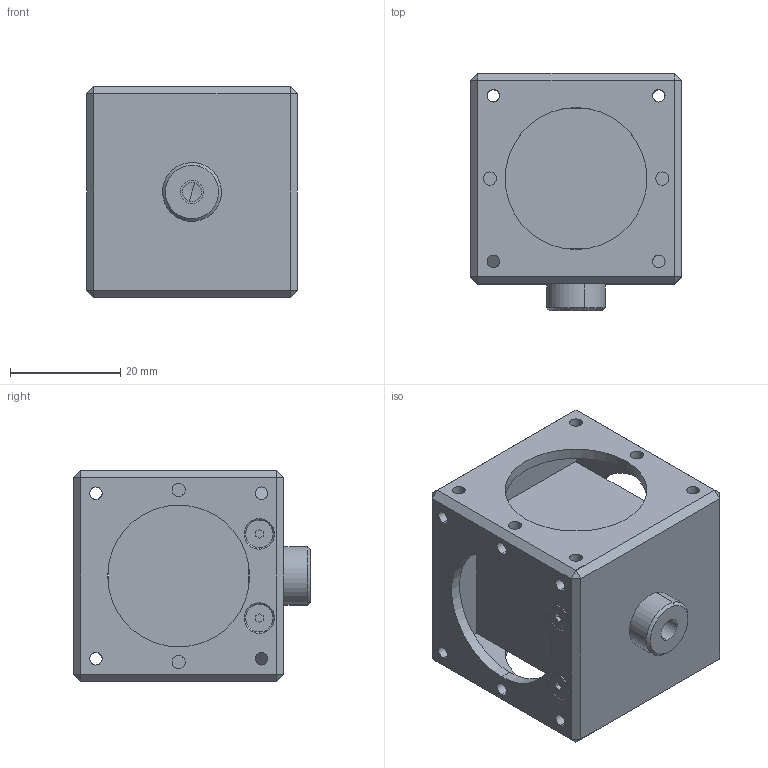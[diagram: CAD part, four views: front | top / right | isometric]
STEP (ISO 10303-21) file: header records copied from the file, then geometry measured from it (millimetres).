
FILE_DESCRIPTION (( 'STEP AP214' ), '1' );
FILE_NAME ('20403-E0W.STEP', '2011-09-09T19:16:45', ( 'Admin' ), ( 'Thorlabs, Inc.' ), 'SwSTEP 2.0', 'SolidWorks 2011', '' );
FILE_SCHEMA (( 'AUTOMOTIVE_DESIGN' ));
Length unit declared in the file: inch
Products named in the file (1): 20403-E0W
Bounding box: 38.11 x 42.93 x 38.1 mm (x, y, z)
Volume: 31863.8 mm3; surface area: 20255.8 mm2
Topology: 9 solids, 9 shells, 784 faces, 2029 edges, 1327 vertices
Faces by surface type: plane 397, bspline 223, cylinder 124, cone 40
Entity records: 45689 total; most frequent: CARTESIAN_POINT 17578, ORIENTED_EDGE 4038, DIRECTION 2897, EDGE_CURVE 2019, VERTEX_POINT 1327, VECTOR 1277, LINE 1277, EDGE_LOOP 908
